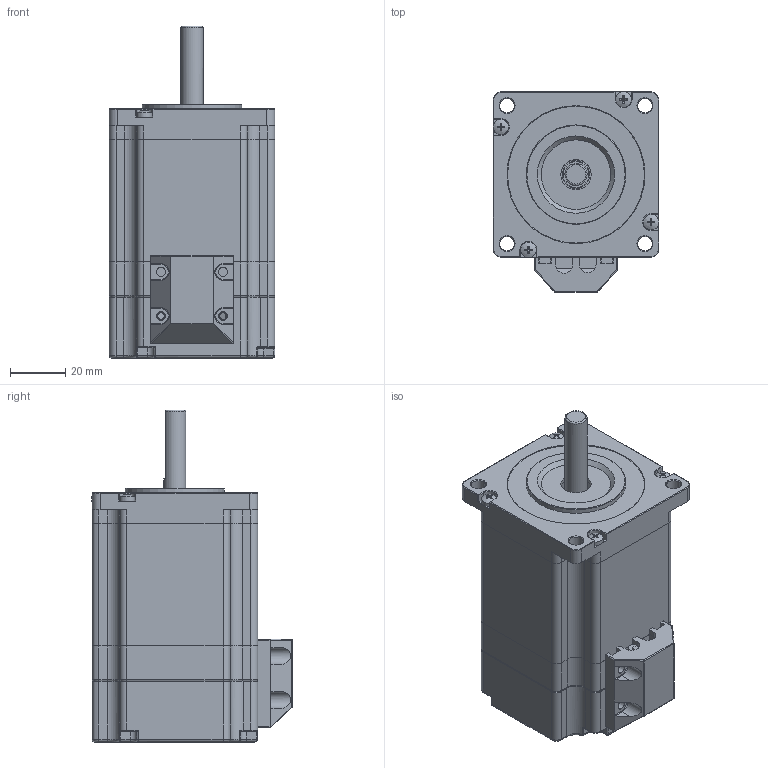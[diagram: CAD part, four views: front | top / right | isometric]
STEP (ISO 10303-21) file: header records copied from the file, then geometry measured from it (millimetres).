
FILE_DESCRIPTION (( 'STEP AP203' ), '1' );
FILE_NAME ('YK260EC65E1-KZ01.STEP', '2018-10-11T03:36:47', ( '' ), ( '' ), 'SwSTEP 2.0', 'SolidWorks 2014', '' );
FILE_SCHEMA (( 'CONFIG_CONTROL_DESIGN' ));
Length unit declared in the file: millimetre
Products named in the file (18): YK260EC 隅赽; 260萇儂萇擢揤啣; YK260EC 坋趼羞攫芛蹟隊; YK260EC65E1-KZ01; YK260EC 綴裔; YK260萇儂晤鎢ん欶; YK260EC 粣; YK260EC ヶ裔
Assembly tree (10 placements, depth 2):
  YK260EC 隅赽
  260萇儂萇擢揤啣
  YK260EC 坋趼羞攫芛蹟隊
  YK260EC65E1-KZ01
    YK260EC ヶ裔
    YK260EC 綴裔
    YK260EC 隅赽
    YK260EC 粣
    YK260EC 坋趼羞攫芛蹟隊  x4
    YK260萇儂晤鎢ん欶
    260萇儂萇擢揤啣
  YK260萇儂晤鎢ん欶
Bounding box: 60.1 x 72.55 x 120.3 mm (x, y, z)
Volume: 164674.3 mm3; surface area: 74968.7 mm2
Topology: 10 solids, 10 shells, 1563 faces, 3419 edges, 1882 vertices
Faces by surface type: cone 972, plane 307, cylinder 216, torus 47, bspline 13, sphere 8
Full cylindrical faces by diameter (mm): 2.5 x6, 2.598 x4, 3 x4, 3.2 x8, 3.3 x4, 5.2 x4, 5.6 x4, 8 x2, 10 x1, 11 x2, 22 x2, 26 x2, 36 x1, 39 x3, 39.6 x2, 50 x1, 55 x1
Entity records: 23255 total; most frequent: CARTESIAN_POINT 4319, DIRECTION 3767, ORIENTED_EDGE 3136, EDGE_CURVE 1568, AXIS2_PLACEMENT_3D 1483, EDGE_LOOP 1165, VERTEX_POINT 1099, FACE_OUTER_BOUND 846
